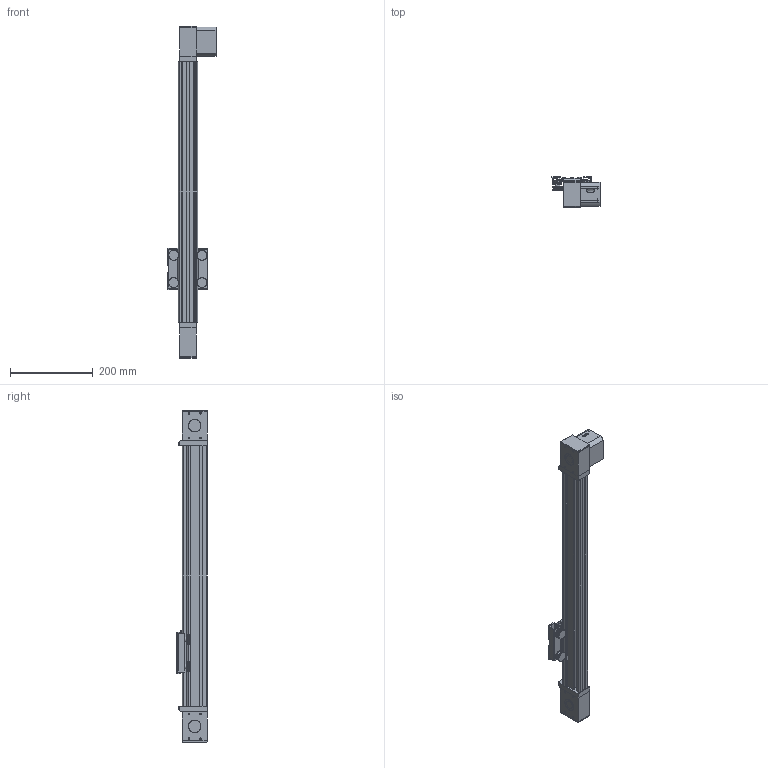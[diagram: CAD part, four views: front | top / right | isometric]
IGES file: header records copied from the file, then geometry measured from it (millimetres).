
Start section: SolidWorks IGES file using analytic representation for surfaces
Global section: file name: C:\Users\tsuch\OneDrive\デスクトップ\(20210628現在)HP用CAD関連\BLS4080A\ﾀﾞｳﾝﾛｰﾄﾞ用\iges形式\BLS3060B.IGS,15HSolidWorks; native system: 2019; preprocessor: SolidWorks 2019; author: tsuch; date: 210712.090722; units: millimetre
Bounding box: 116 x 73 x 802 mm (x, y, z)
Surface area: 554975.3 mm2 (no closed solid volume)
Topology: 0 solids, 0 shells, 805 faces, 11356 edges, 11324 vertices
Faces by surface type: bspline 404, revolution 401
